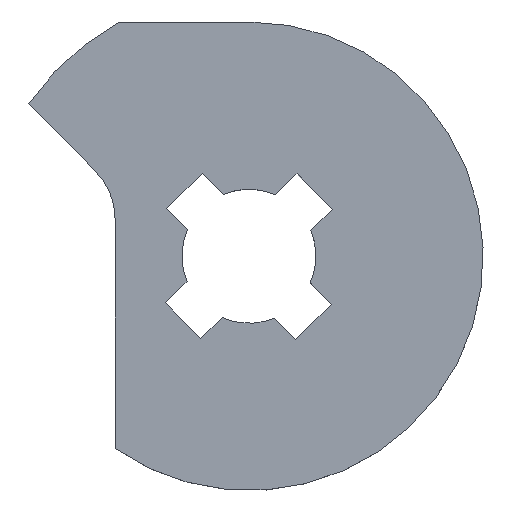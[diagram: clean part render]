
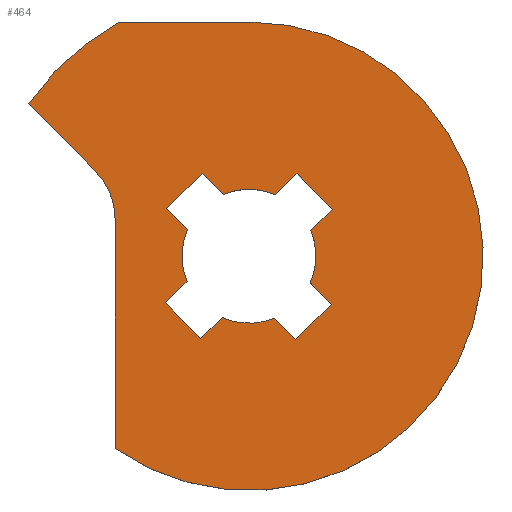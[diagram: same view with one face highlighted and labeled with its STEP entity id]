
A CAD part, top view. The second image highlights one B-rep face of the part: STEP entity #464.
In plain terms, the highlighted planar face has unit normal (0, 0, 1).
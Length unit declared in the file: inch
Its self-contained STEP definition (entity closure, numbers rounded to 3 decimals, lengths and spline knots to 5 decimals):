
#15=FACE_BOUND('',#76,.T.);
#17=CIRCLE('',#487,0.25);
#19=CIRCLE('',#490,0.25);
#22=CIRCLE('',#494,0.25);
#23=CIRCLE('',#496,0.25);
#25=CIRCLE('',#499,0.875);
#26=CIRCLE('',#500,1.);
#27=CIRCLE('',#501,0.25);
#51=FACE_OUTER_BOUND('',#75,.T.);
#75=EDGE_LOOP('',(#354,#355,#356,#357,#358,#359));
#76=EDGE_LOOP('',(#360,#361,#362,#363,#364,#365,#366,#367,#368,#369,#370,
#371,#372,#373,#374,#375));
#89=LINE('',#651,#141);
#93=LINE('',#659,#145);
#97=LINE('',#666,#149);
#99=LINE('',#672,#151);
#103=LINE('',#680,#155);
#107=LINE('',#687,#159);
#109=LINE('',#693,#161);
#113=LINE('',#701,#165);
#117=LINE('',#708,#169);
#120=LINE('',#732,#172);
#121=LINE('',#736,#173);
#122=LINE('',#739,#174);
#123=LINE('',#741,#175);
#124=LINE('',#743,#176);
#125=LINE('',#744,#177);
#141=VECTOR('',#520,0.11199);
#145=VECTOR('',#526,0.1875);
#149=VECTOR('',#532,0.11199);
#151=VECTOR('',#536,0.11199);
#155=VECTOR('',#542,0.1875);
#159=VECTOR('',#548,0.11199);
#161=VECTOR('',#552,0.11199);
#165=VECTOR('',#558,0.1875);
#169=VECTOR('',#564,0.11199);
#172=VECTOR('',#595,0.48412);
#173=VECTOR('',#598,0.35665);
#174=VECTOR('',#601,0.85878);
#175=VECTOR('',#602,0.11199);
#176=VECTOR('',#603,0.1875);
#177=VECTOR('',#604,0.11199);
#192=VERTEX_POINT('',#647);
#194=VERTEX_POINT('',#650);
#197=VERTEX_POINT('',#658);
#199=VERTEX_POINT('',#663);
#200=VERTEX_POINT('',#668);
#202=VERTEX_POINT('',#671);
#205=VERTEX_POINT('',#679);
#207=VERTEX_POINT('',#684);
#208=VERTEX_POINT('',#689);
#210=VERTEX_POINT('',#692);
#213=VERTEX_POINT('',#700);
#215=VERTEX_POINT('',#705);
#216=VERTEX_POINT('',#710);
#219=VERTEX_POINT('',#721);
#220=VERTEX_POINT('',#728);
#221=VERTEX_POINT('',#729);
#222=VERTEX_POINT('',#731);
#223=VERTEX_POINT('',#733);
#224=VERTEX_POINT('',#735);
#225=VERTEX_POINT('',#737);
#226=VERTEX_POINT('',#740);
#227=VERTEX_POINT('',#742);
#237=EDGE_CURVE('',#194,#192,#89,.T.);
#241=EDGE_CURVE('',#197,#194,#93,.T.);
#245=EDGE_CURVE('',#199,#197,#97,.T.);
#247=EDGE_CURVE('',#202,#200,#99,.T.);
#251=EDGE_CURVE('',#205,#202,#103,.T.);
#255=EDGE_CURVE('',#207,#205,#107,.T.);
#257=EDGE_CURVE('',#210,#208,#109,.T.);
#261=EDGE_CURVE('',#213,#210,#113,.T.);
#265=EDGE_CURVE('',#215,#213,#117,.T.);
#266=EDGE_CURVE('',#216,#215,#17,.T.);
#269=EDGE_CURVE('',#208,#207,#19,.T.);
#273=EDGE_CURVE('',#192,#219,#22,.T.);
#274=EDGE_CURVE('',#200,#199,#23,.T.);
#276=EDGE_CURVE('',#220,#221,#25,.T.);
#277=EDGE_CURVE('',#221,#222,#120,.T.);
#278=EDGE_CURVE('',#222,#223,#26,.T.);
#279=EDGE_CURVE('',#223,#224,#121,.T.);
#280=EDGE_CURVE('',#225,#224,#27,.T.);
#281=EDGE_CURVE('',#225,#220,#122,.T.);
#282=EDGE_CURVE('',#219,#226,#123,.T.);
#283=EDGE_CURVE('',#226,#227,#124,.T.);
#284=EDGE_CURVE('',#227,#216,#125,.T.);
#354=ORIENTED_EDGE('',*,*,#276,.T.);
#355=ORIENTED_EDGE('',*,*,#277,.T.);
#356=ORIENTED_EDGE('',*,*,#278,.T.);
#357=ORIENTED_EDGE('',*,*,#279,.T.);
#358=ORIENTED_EDGE('',*,*,#280,.F.);
#359=ORIENTED_EDGE('',*,*,#281,.T.);
#360=ORIENTED_EDGE('',*,*,#245,.T.);
#361=ORIENTED_EDGE('',*,*,#241,.T.);
#362=ORIENTED_EDGE('',*,*,#237,.T.);
#363=ORIENTED_EDGE('',*,*,#273,.T.);
#364=ORIENTED_EDGE('',*,*,#282,.T.);
#365=ORIENTED_EDGE('',*,*,#283,.T.);
#366=ORIENTED_EDGE('',*,*,#284,.T.);
#367=ORIENTED_EDGE('',*,*,#266,.T.);
#368=ORIENTED_EDGE('',*,*,#265,.T.);
#369=ORIENTED_EDGE('',*,*,#261,.T.);
#370=ORIENTED_EDGE('',*,*,#257,.T.);
#371=ORIENTED_EDGE('',*,*,#269,.T.);
#372=ORIENTED_EDGE('',*,*,#255,.T.);
#373=ORIENTED_EDGE('',*,*,#251,.T.);
#374=ORIENTED_EDGE('',*,*,#247,.T.);
#375=ORIENTED_EDGE('',*,*,#274,.T.);
#443=PLANE('',#498);
#464=ADVANCED_FACE('',(#51,#15),#443,.T.);
#487=AXIS2_PLACEMENT_3D('',#711,#567,#568);
#490=AXIS2_PLACEMENT_3D('',#716,#574,#575);
#494=AXIS2_PLACEMENT_3D('',#723,#583,#584);
#496=AXIS2_PLACEMENT_3D('',#725,#587,#588);
#498=AXIS2_PLACEMENT_3D('',#727,#591,#592);
#499=AXIS2_PLACEMENT_3D('',#730,#593,#594);
#500=AXIS2_PLACEMENT_3D('',#734,#596,#597);
#501=AXIS2_PLACEMENT_3D('',#738,#599,#600);
#520=DIRECTION('',(0.714,0.7,0.));
#526=DIRECTION('',(-0.7,0.714,0.));
#532=DIRECTION('',(-0.714,-0.7,0.));
#536=DIRECTION('',(-0.7,0.714,0.));
#542=DIRECTION('',(-0.714,-0.7,0.));
#548=DIRECTION('',(0.7,-0.714,0.));
#552=DIRECTION('',(-0.714,-0.7,0.));
#558=DIRECTION('',(0.7,-0.714,0.));
#564=DIRECTION('',(0.714,0.7,0.));
#567=DIRECTION('center_axis',(0.,0.,-1.));
#568=DIRECTION('ref_axis',(-1.,0.,0.));
#574=DIRECTION('center_axis',(0.,0.,-1.));
#575=DIRECTION('ref_axis',(-1.,0.,0.));
#583=DIRECTION('center_axis',(0.,0.,-1.));
#584=DIRECTION('ref_axis',(-1.,0.,0.));
#587=DIRECTION('center_axis',(0.,0.,-1.));
#588=DIRECTION('ref_axis',(-1.,0.,0.));
#591=DIRECTION('center_axis',(0.,0.,1.));
#592=DIRECTION('ref_axis',(1.,0.,0.));
#593=DIRECTION('center_axis',(0.,0.,1.));
#594=DIRECTION('ref_axis',(0.571,0.821,0.));
#595=DIRECTION('',(-1.,0.,0.));
#596=DIRECTION('center_axis',(0.,0.,1.));
#597=DIRECTION('ref_axis',(-0.484,0.875,0.));
#598=DIRECTION('',(0.7,-0.714,0.));
#599=DIRECTION('center_axis',(0.,0.,1.));
#600=DIRECTION('ref_axis',(0.926,0.378,0.));
#601=DIRECTION('',(0.,-1.,0.));
#602=DIRECTION('',(-0.7,0.714,0.));
#603=DIRECTION('',(0.714,0.7,0.));
#604=DIRECTION('',(0.7,-0.714,0.));
#647=CARTESIAN_POINT('',(0.64393,0.77958,0.1875));
#650=CARTESIAN_POINT('',(0.564,0.70113,0.1875));
#651=CARTESIAN_POINT('',(0.68666,0.82152,0.1875));
#658=CARTESIAN_POINT('',(0.69533,0.56731,0.1875));
#659=CARTESIAN_POINT('',(0.66249,0.60077,0.1875));
#663=CARTESIAN_POINT('',(0.77526,0.64576,0.1875));
#666=CARTESIAN_POINT('',(0.88937,0.75775,0.1875));
#668=CARTESIAN_POINT('',(0.97042,0.64393,0.1875));
#671=CARTESIAN_POINT('',(1.04887,0.564,0.1875));
#672=CARTESIAN_POINT('',(0.92848,0.68666,0.1875));
#679=CARTESIAN_POINT('',(1.18269,0.69533,0.1875));
#680=CARTESIAN_POINT('',(1.14923,0.66249,0.1875));
#684=CARTESIAN_POINT('',(1.10424,0.77526,0.1875));
#687=CARTESIAN_POINT('',(0.99225,0.88937,0.1875));
#689=CARTESIAN_POINT('',(1.10607,0.97042,0.1875));
#692=CARTESIAN_POINT('',(1.186,1.04887,0.1875));
#693=CARTESIAN_POINT('',(1.06334,0.92848,0.1875));
#700=CARTESIAN_POINT('',(1.05467,1.18269,0.1875));
#701=CARTESIAN_POINT('',(1.08751,1.14923,0.1875));
#705=CARTESIAN_POINT('',(0.97474,1.10424,0.1875));
#708=CARTESIAN_POINT('',(0.86063,0.99225,0.1875));
#710=CARTESIAN_POINT('',(0.77958,1.10607,0.1875));
#711=CARTESIAN_POINT('Origin',(0.875,0.875,0.1875));
#716=CARTESIAN_POINT('Origin',(0.875,0.875,0.1875));
#721=CARTESIAN_POINT('',(0.64576,0.97474,0.1875));
#723=CARTESIAN_POINT('Origin',(0.875,0.875,0.1875));
#725=CARTESIAN_POINT('Origin',(0.875,0.875,0.1875));
#727=CARTESIAN_POINT('Origin',(0.875,0.875,0.1875));
#728=CARTESIAN_POINT('',(0.375,0.15693,0.1875));
#729=CARTESIAN_POINT('',(0.875,1.75,0.1875));
#730=CARTESIAN_POINT('Origin',(0.875,0.875,0.1875));
#731=CARTESIAN_POINT('',(0.39088,1.75,0.1875));
#732=CARTESIAN_POINT('',(1.75,1.75,0.1875));
#733=CARTESIAN_POINT('',(0.05361,1.44537,0.1875));
#734=CARTESIAN_POINT('Origin',(0.875,0.875,0.1875));
#735=CARTESIAN_POINT('',(0.30343,1.19082,0.1875));
#736=CARTESIAN_POINT('',(0.37087,1.12211,0.1875));
#737=CARTESIAN_POINT('',(0.375,1.01571,0.1875));
#738=CARTESIAN_POINT('Origin',(0.125,1.01571,0.1875));
#739=CARTESIAN_POINT('',(0.375,0.99645,0.1875));
#740=CARTESIAN_POINT('',(0.56731,1.05467,0.1875));
#741=CARTESIAN_POINT('',(0.75775,0.86063,0.1875));
#742=CARTESIAN_POINT('',(0.70113,1.186,0.1875));
#743=CARTESIAN_POINT('',(0.60077,1.08751,0.1875));
#744=CARTESIAN_POINT('',(0.82152,1.06334,0.1875));
